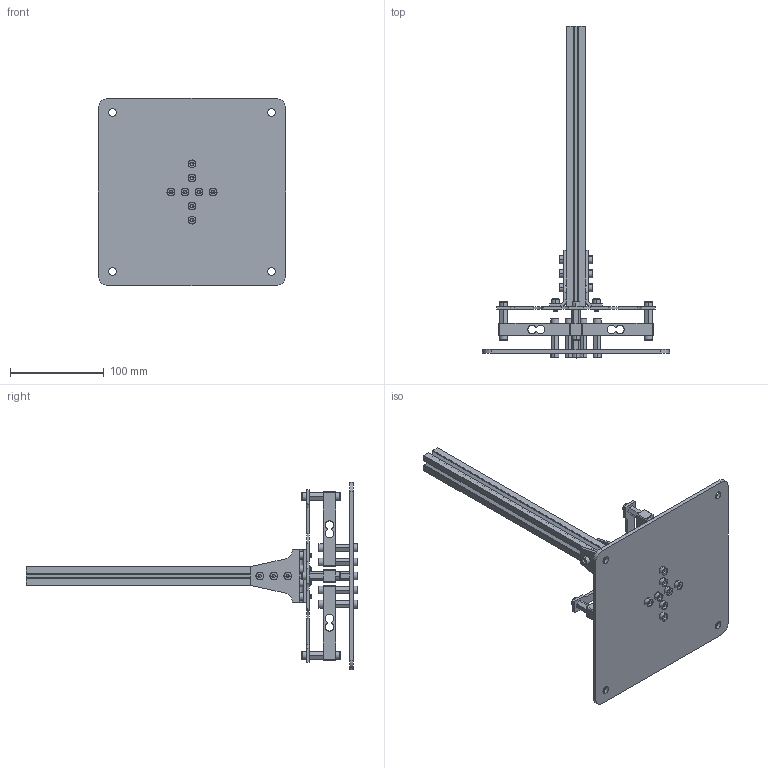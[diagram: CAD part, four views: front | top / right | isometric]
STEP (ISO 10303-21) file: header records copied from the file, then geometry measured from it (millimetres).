
FILE_DESCRIPTION (( 'STEP AP203' ), '1' );
FILE_NAME ('LoadCellBase.STEP', '2021-12-30T11:15:27', ( 'Olukelo' ), ( '' ), 'SwSTEP 2.0', 'SolidWorks 2018', '' );
FILE_SCHEMA (( 'CONFIG_CONTROL_DESIGN' ));
Length unit declared in the file: millimetre
Products named in the file (11): BasePlate; socket head cap screw_iso_ISO 4762 M5 x 20 - 20N; FlexElement; CornerConnector; DIN_6334_M5x15; profile_long; socket head cap screw_iso_ISO 4762 M5 x 10 - 10N; LoadCellBase; LoadCell; socket head cap screw_iso_ISO 4762 M5 x 8 - 8N; LoadCellAssembly
Assembly tree (42 placements, depth 3):
  LoadCellBase
    CornerConnector  x2
    profile_long
    LoadCellAssembly  x4
      LoadCell
      DIN_6334_M5x15
      socket head cap screw_iso_ISO 4762 M5 x 20 - 20N
    BasePlate
    FlexElement
    socket head cap screw_iso_ISO 4762 M5 x 10 - 10N  x8
    socket head cap screw_iso_ISO 4762 M5 x 8 - 8N  x18
Bounding box: 200 x 355 x 200 mm (x, y, z)
Volume: 342584.8 mm3; surface area: 204770.9 mm2
Topology: 59 solids, 59 shells, 1456 faces, 3352 edges, 2014 vertices
Faces by surface type: plane 816, cylinder 336, cone 152, torus 152
Entity records: 11572 total; most frequent: DIRECTION 1755, CARTESIAN_POINT 1632, ORIENTED_EDGE 1562, EDGE_CURVE 781, AXIS2_PLACEMENT_3D 628, VERTEX_POINT 505, VECTOR 499, LINE 499
